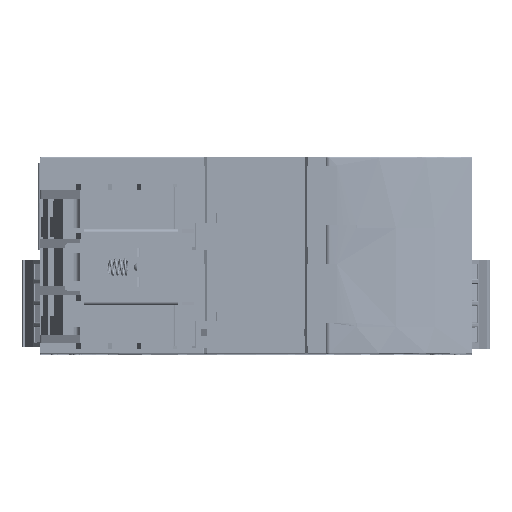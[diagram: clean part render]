
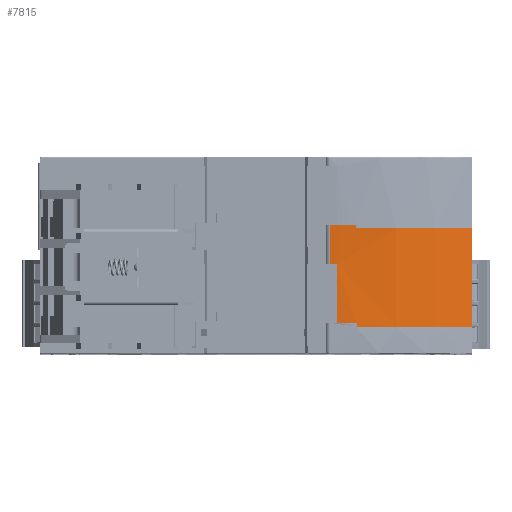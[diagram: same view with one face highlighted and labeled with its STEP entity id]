
A CAD part, top view. The second image highlights one B-rep face of the part: STEP entity #7815.
In plain terms, the highlighted cylindrical face has radius 77.596 mm (diameter 155.192 mm), a partial arc.
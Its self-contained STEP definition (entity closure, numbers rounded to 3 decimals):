
#7815=ADVANCED_FACE('',(#66860),#66862,.T.);
#66860=FACE_BOUND('',#66861,.T.);
#66861=EDGE_LOOP('',(#114144,#114145,#114146,#114147,#114148,#114149,#114150,#114151,
#114152,#114153));
#66862=CYLINDRICAL_SURFACE('',#66863,77.596);
#66863=AXIS2_PLACEMENT_3D('',#66864,#66865,#66866);
#66864=CARTESIAN_POINT('',(16.,-0.1,-77.596));
#66865=DIRECTION('',(0.,1.,0.));
#66866=DIRECTION('',(1.,0.,0.));
#114144=ORIENTED_EDGE('',*,*,#153788,.T.);
#114145=ORIENTED_EDGE('',*,*,#153820,.F.);
#114146=ORIENTED_EDGE('',*,*,#153821,.T.);
#114147=ORIENTED_EDGE('',*,*,#153822,.F.);
#114148=ORIENTED_EDGE('',*,*,#153699,.T.);
#114149=ORIENTED_EDGE('',*,*,#153823,.F.);
#114150=ORIENTED_EDGE('',*,*,#153252,.F.);
#114151=ORIENTED_EDGE('',*,*,#153806,.T.);
#114152=ORIENTED_EDGE('',*,*,#153803,.F.);
#114153=ORIENTED_EDGE('',*,*,#153824,.T.);
#153252=EDGE_CURVE('',#173543,#173545,#173546,.T.);
#153699=EDGE_CURVE('',#174307,#174305,#174308,.T.);
#153788=EDGE_CURVE('',#174458,#174456,#174459,.T.);
#153803=EDGE_CURVE('',#174480,#174481,#174482,.T.);
#153806=EDGE_CURVE('',#173543,#174481,#174485,.T.);
#153820=EDGE_CURVE('',#174505,#174456,#174506,.T.);
#153821=EDGE_CURVE('',#174505,#174507,#174508,.T.);
#153822=EDGE_CURVE('',#174307,#174507,#174509,.T.);
#153823=EDGE_CURVE('',#173545,#174305,#174510,.T.);
#153824=EDGE_CURVE('',#174480,#174458,#174511,.T.);
#173543=VERTEX_POINT('',#210814);
#173545=VERTEX_POINT('',#210818);
#173546=CIRCLE('',#210819,77.596);
#174305=VERTEX_POINT('',#212700);
#174307=VERTEX_POINT('',#212705);
#174308=CIRCLE('',#212706,77.596);
#174456=VERTEX_POINT('',#213060);
#174458=VERTEX_POINT('',#213064);
#174459=CIRCLE('',#213065,77.596);
#174480=VERTEX_POINT('',#213118);
#174481=VERTEX_POINT('',#213119);
#174482=CIRCLE('',#213120,77.596);
#174485=LINE('',#213131,#213132);
#174505=VERTEX_POINT('',#213179);
#174506=LINE('',#213180,#213181);
#174507=VERTEX_POINT('',#213183);
#174508=CIRCLE('',#213184,77.596);
#174509=LINE('',#213188,#213189);
#174510=LINE('',#213191,#213192);
#174511=LINE('',#213194,#213195);
#210814=CARTESIAN_POINT('',(23.,28.8,-0.316));
#210818=CARTESIAN_POINT('',(49.587,28.8,-7.645));
#210819=AXIS2_PLACEMENT_3D('',#210820,#210821,#210822);
#210820=CARTESIAN_POINT('',(16.,28.8,-77.596));
#210821=DIRECTION('',(0.,1.,0.));
#210822=DIRECTION('',(0.09,0.,0.996));
#212700=CARTESIAN_POINT('',(49.587,6.2,-7.645));
#212705=CARTESIAN_POINT('',(23.1,6.2,-0.326));
#212706=AXIS2_PLACEMENT_3D('',#212707,#212708,#212709);
#212707=CARTESIAN_POINT('',(16.,6.2,-77.596));
#212708=DIRECTION('',(0.,1.,0.));
#212709=DIRECTION('',(0.091,0.,0.996));
#213060=CARTESIAN_POINT('',(18.6,20.5,-0.044));
#213064=CARTESIAN_POINT('',(17.013,20.5,-0.007));
#213065=AXIS2_PLACEMENT_3D('',#213066,#213067,#213068);
#213066=CARTESIAN_POINT('',(16.,20.5,-77.596));
#213067=DIRECTION('',(0.,1.,0.));
#213068=DIRECTION('',(0.013,0.,1.));
#213118=CARTESIAN_POINT('',(17.013,29.6,-0.007));
#213119=CARTESIAN_POINT('',(23.,29.6,-0.316));
#213120=AXIS2_PLACEMENT_3D('',#213121,#213122,#213123);
#213121=CARTESIAN_POINT('',(16.,29.6,-77.596));
#213122=DIRECTION('',(0.,1.,0.));
#213123=DIRECTION('',(0.013,0.,1.));
#213131=CARTESIAN_POINT('',(23.,28.8,-0.316));
#213132=VECTOR('',#213133,1.);
#213133=DIRECTION('',(0.,1.,0.));
#213179=CARTESIAN_POINT('',(18.6,7.,-0.044));
#213180=CARTESIAN_POINT('',(18.6,7.,-0.044));
#213181=VECTOR('',#213182,1.);
#213182=DIRECTION('',(0.,1.,0.));
#213183=CARTESIAN_POINT('',(23.1,7.,-0.326));
#213184=AXIS2_PLACEMENT_3D('',#213185,#213186,#213187);
#213185=CARTESIAN_POINT('',(16.,7.,-77.596));
#213186=DIRECTION('',(0.,1.,0.));
#213187=DIRECTION('',(0.034,0.,0.999));
#213188=CARTESIAN_POINT('',(23.1,6.2,-0.326));
#213189=VECTOR('',#213190,1.);
#213190=DIRECTION('',(0.,1.,0.));
#213191=CARTESIAN_POINT('',(49.587,28.8,-7.645));
#213192=VECTOR('',#213193,1.);
#213193=DIRECTION('',(0.,-1.,0.));
#213194=CARTESIAN_POINT('',(17.013,29.6,-0.007));
#213195=VECTOR('',#213196,1.);
#213196=DIRECTION('',(0.,-1.,0.));
